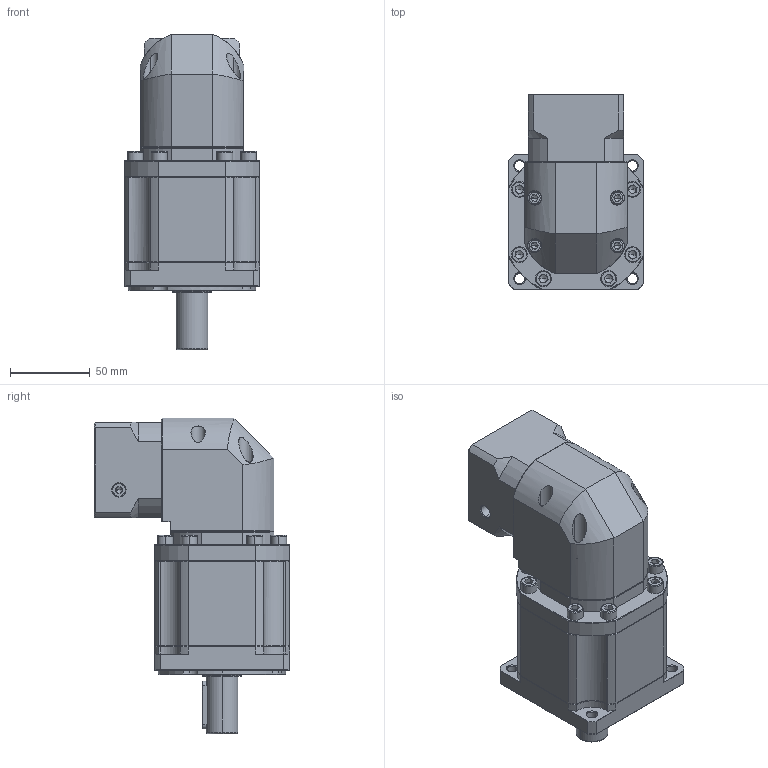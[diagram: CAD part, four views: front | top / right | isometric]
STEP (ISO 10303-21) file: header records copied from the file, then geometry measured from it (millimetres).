
FILE_DESCRIPTION (( 'STEP AP214' ), '1' );
FILE_NAME ('ZBR090-D20-L3-P2-8-30-46-M4.step', '2023-08-19T03:57:15', ( '' ), ( '' ), 'SwSTEP 2.0', 'SolidWorks 2016', '' );
FILE_SCHEMA (( 'AUTOMOTIVE_DESIGN' ));
Length unit declared in the file: millimetre
Products named in the file (1): ZBR090-D20-L3-P2-8-30-46-M4
Bounding box: 85 x 122.7 x 198 mm (x, y, z)
Volume: 928444.1 mm3; surface area: 106959.7 mm2
Topology: 5 solids, 5 shells, 2482 faces, 6618 edges, 4243 vertices
Faces by surface type: plane 1176, bspline 490, cylinder 429, cone 367, torus 20
Entity records: 147291 total; most frequent: CARTESIAN_POINT 61974, ORIENTED_EDGE 13160, DIRECTION 10335, EDGE_CURVE 6580, VERTEX_POINT 4243, LINE 4013, VECTOR 4013, AXIS2_PLACEMENT_3D 3161
